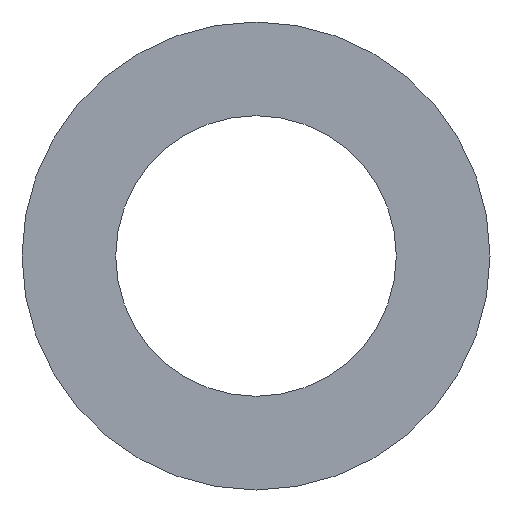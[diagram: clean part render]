
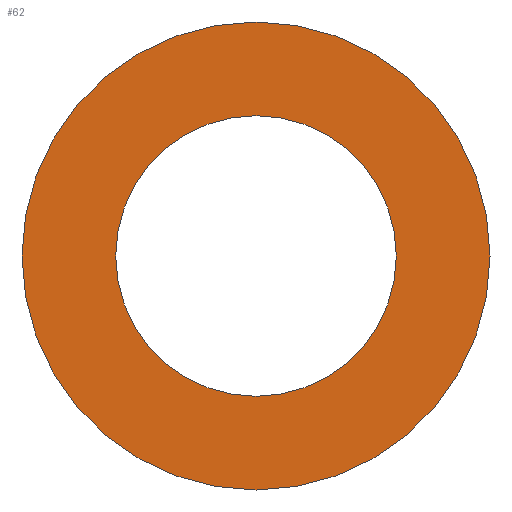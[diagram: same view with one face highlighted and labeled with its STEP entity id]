
A CAD part, front view. The second image highlights one B-rep face of the part: STEP entity #62.
In plain terms, the highlighted planar face has unit normal (0, -1, 0).
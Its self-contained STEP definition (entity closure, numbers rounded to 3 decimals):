
#20=PLANE('',#83);
#26=ORIENTED_EDGE('',*,*,#30,.T.);
#27=ORIENTED_EDGE('',*,*,#32,.F.);
#30=EDGE_CURVE('',#34,#34,#38,.T.);
#32=EDGE_CURVE('',#36,#36,#40,.T.);
#34=VERTEX_POINT('',#106);
#36=VERTEX_POINT('',#111);
#38=CIRCLE('',#78,185.);
#40=CIRCLE('',#81,308.5);
#46=EDGE_LOOP('',(#26));
#47=EDGE_LOOP('',(#27));
#54=FACE_BOUND('',#46,.T.);
#55=FACE_BOUND('',#47,.T.);
#62=ADVANCED_FACE('',(#54,#55),#20,.F.);
#78=AXIS2_PLACEMENT_3D('',#105,#89,#90);
#81=AXIS2_PLACEMENT_3D('',#110,#95,#96);
#83=AXIS2_PLACEMENT_3D('',#114,#99,#100);
#89=DIRECTION('',(0.,1.,0.));
#90=DIRECTION('',(1.,0.,0.));
#95=DIRECTION('',(0.,1.,0.));
#96=DIRECTION('',(1.,0.,0.));
#99=DIRECTION('',(0.,1.,0.));
#100=DIRECTION('',(0.,0.,1.));
#105=CARTESIAN_POINT('',(0.,-1.5,0.));
#106=CARTESIAN_POINT('',(185.,-1.5,0.));
#110=CARTESIAN_POINT('',(0.,-1.5,0.));
#111=CARTESIAN_POINT('',(308.5,-1.5,0.));
#114=CARTESIAN_POINT('',(0.,-1.5,0.));
